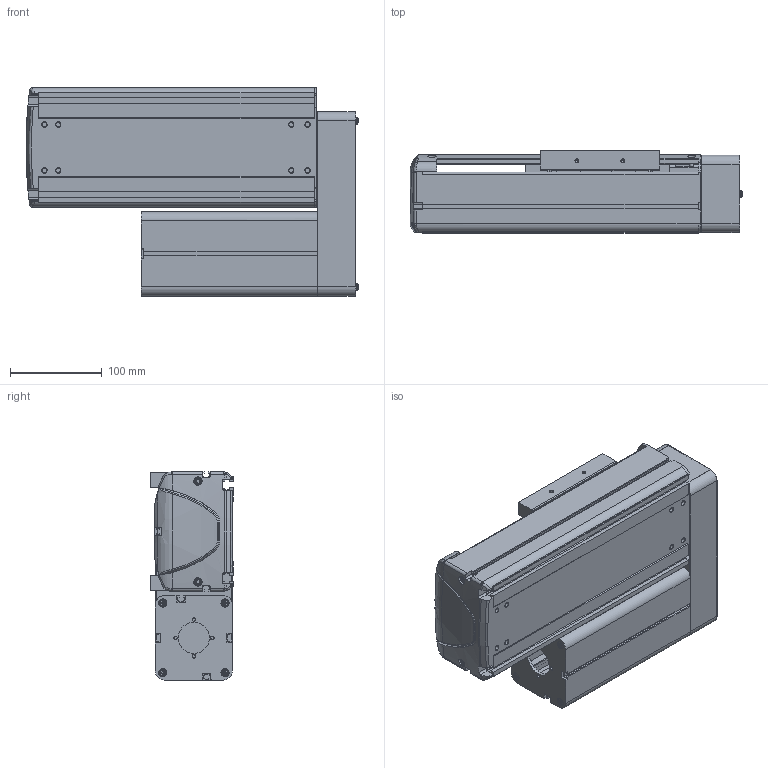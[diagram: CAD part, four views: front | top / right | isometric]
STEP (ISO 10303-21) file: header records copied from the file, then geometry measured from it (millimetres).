
FILE_DESCRIPTION((''),'2;1');
FILE_NAME('BE30E-UL-M_B-10_IGS_PRT','2017-06-17T',(' '),(''),'PRO/ENGINEER BY PARAMETRIC TECHNOLOGY CORPORATION, 2015030','PRO/ENGINEER BY PARAMETRIC TECHNOLOGY CORPORATION, 2015030','');
FILE_SCHEMA(('CONFIG_CONTROL_DESIGN'));
Length unit declared in the file: millimetre
Products named in the file (1): BE30E-UL-M_B-10_IGS_PRT
Bounding box: 361.9 x 89.8 x 227 mm (x, y, z)
Volume: 1638885.6 mm3; surface area: 774266.6 mm2
Topology: 2 solids, 98 shells, 1921 faces, 5118 edges, 3317 vertices
Faces by surface type: plane 980, cylinder 745, cone 103, torus 39, bspline 30, sphere 24
Entity records: 61596 total; most frequent: CARTESIAN_POINT 12924, DIRECTION 10301, ORIENTED_EDGE 9800, EDGE_CURVE 5080, AXIS2_PLACEMENT_3D 3590, VERTEX_POINT 3317, VECTOR 3121, LINE 3121
